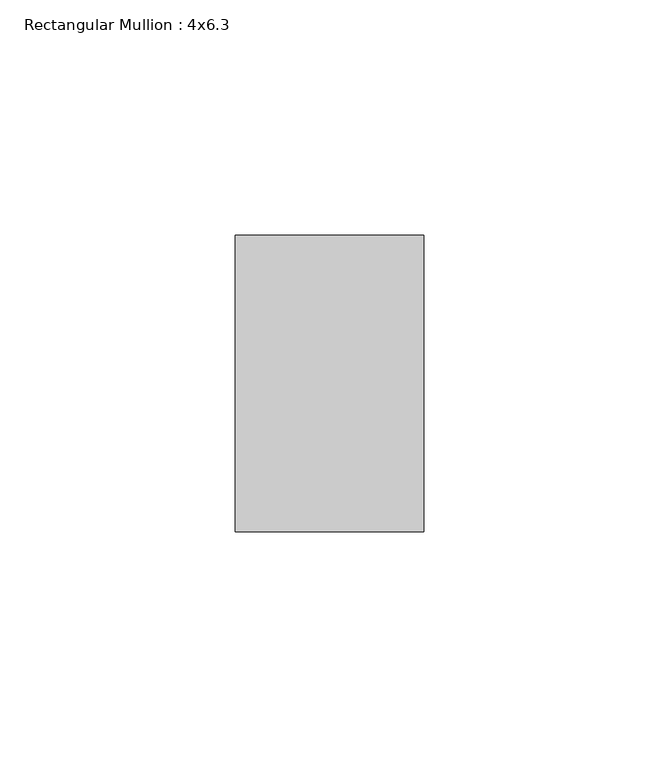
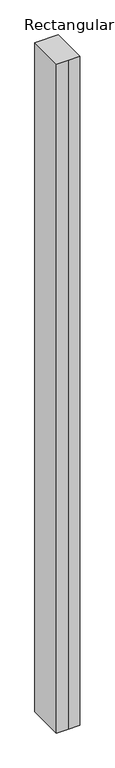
"""IFC4 building model written with IfcOpenShell, lengths in millimetres: member geometry, Rectangular Mullion : 4x6.3."""

from ifc_helpers import new_model, si_unit, frame, origin, place, context, project, spatial, polyline, outline, extrude, source, transform, mapped, element, save


def rectangular_mullion_4x6_3_150b61dc(model_context):
    return source(origin(), model_context, "Body", "SweptSolid", [
        extrude(outline(polyline([(-20.0, 20.0), (-20.0, 83.0), (20.0, 83.0), (20.0, 20.0), (0.0, 20.0), (-20.0, 20.0)])), frame((0.0, 0.0, -1199.4814379), z_axis=(0.0, 0.0, 1.0), x_axis=(1.0, 0.0, 0.0)), (0.0, 0.0, 1.0), 1199.4814379),
    ])


if __name__ == "__main__":
    model = new_model("IFC4")
    model_context = context("Model", 3, world=origin())
    ifc_project = project(units=[si_unit("LENGTHUNIT", "METRE", prefix="MILLI")], contexts=[model_context])
    site = spatial("IfcSite", under=ifc_project)
    building = spatial("IfcBuilding", under=site)
    placement = place(None, origin())
    rectangular_mullion_4x6_3_shape = rectangular_mullion_4x6_3_150b61dc(model_context)
    element("IfcMember", 1, ObjectType="Rectangular Mullion : 4x6.3", at=placement, inside=building, context=model_context, shape_type="MappedRepresentation", body=[
        mapped(rectangular_mullion_4x6_3_shape, transform((0.0, 0.0, 0.0), x_axis=(1.0, 0.0, 0.0), y_axis=(0.0, 1.0, 0.0), z_axis=(0.0, 0.0, 1.0))),
    ])
    save(model, "model.ifc")
